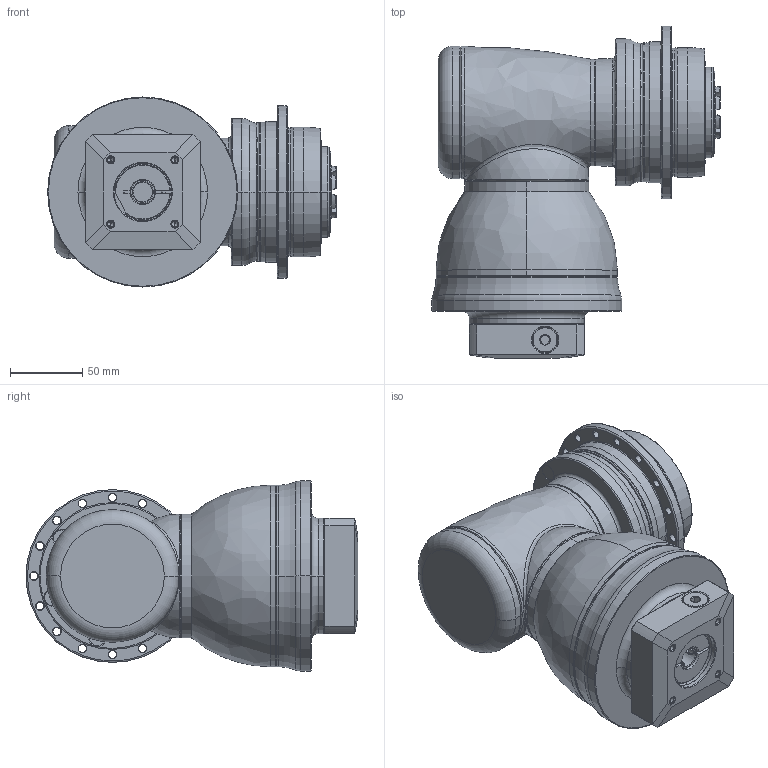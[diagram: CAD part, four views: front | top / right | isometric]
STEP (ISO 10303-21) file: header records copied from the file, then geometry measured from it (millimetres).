
FILE_DESCRIPTION((''),'2;1');
FILE_NAME('APCK090_2ST_SBG_14-P0409320201_ASM','2018-10-24T',('d01226'),(''),'PRO/ENGINEER BY PARAMETRIC TECHNOLOGY CORPORATION, 2015240','PRO/ENGINEER BY PARAMETRIC TECHNOLOGY CORPORATION, 2015240','');
FILE_SCHEMA(('CONFIG_CONTROL_DESIGN'));
Length unit declared in the file: millimetre
Products named in the file (13): P0278301003; P0359330103; P1211300001; P1802310011; P1018400002; P1365400001; P1007401001; P1318410601; P0409320201; P0503300006; P0912406201; 21711412017; APCK090_2ST_SBG_14-P0409320201_ASM
Assembly tree (12 placements, depth 2):
  APCK090_2ST_SBG_14-P0409320201_ASM
    P0278301003
    P0359330103
    P1211300001
    P1802310011
    P1018400002
    P1365400001
    P1007401001
    P1318410601
    P0409320201
    P0503300006
    P0912406201
    21711412017
Bounding box: 200.4 x 230.5 x 132 mm (x, y, z)
Volume: 2460905.8 mm3; surface area: 291098.1 mm2
Topology: 13 solids, 23 shells, 710 faces, 1658 edges, 1010 vertices
Faces by surface type: cylinder 246, cone 179, plane 147, torus 100, bspline 37, sphere 1
Entity records: 27623 total; most frequent: CARTESIAN_POINT 10951, DIRECTION 3716, ORIENTED_EDGE 3246, EDGE_CURVE 1644, AXIS2_PLACEMENT_3D 1602, VERTEX_POINT 1010, CIRCLE 894, EDGE_LOOP 808
